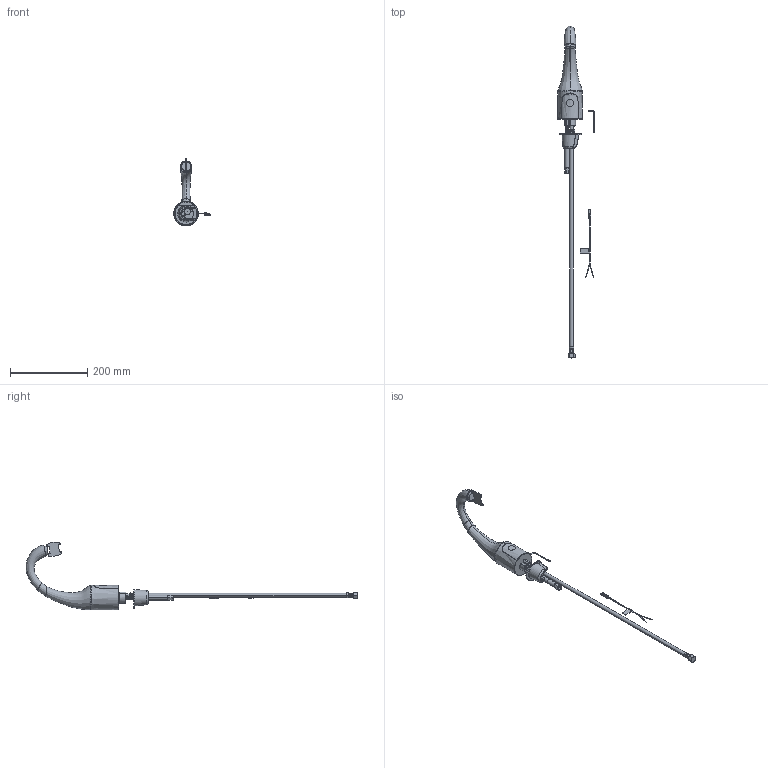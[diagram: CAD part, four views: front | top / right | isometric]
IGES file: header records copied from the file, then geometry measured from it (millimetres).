
Start section:  PTC IGES file: 116-759-ab-1t_REV062770.igs
Global section: file name: 116-759-ab-1t_REV062770.igs; native system: Creo Parametric by PTC Inc.; preprocessor: 2021184; author: rodjo; organization: Unknown; date: 20220627.092652; units: inch
Bounding box: 94.21 x 859.7 x 175.77 mm (x, y, z)
Surface area: 99656.7 mm2 (no closed solid volume)
Topology: 0 solids, 0 shells, 542 faces, 4400 edges, 6009 vertices
Faces by surface type: revolution 335, bspline 207
